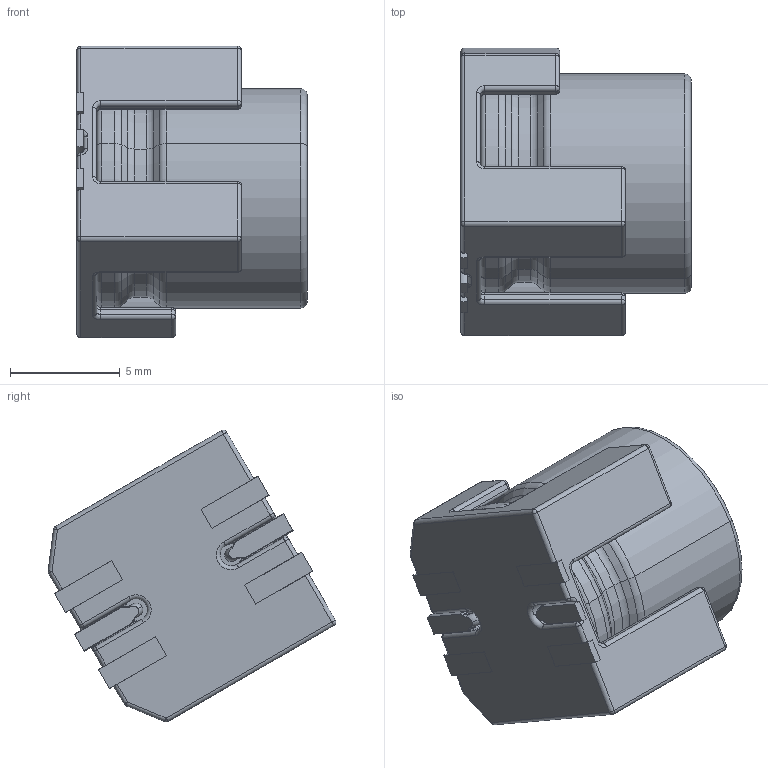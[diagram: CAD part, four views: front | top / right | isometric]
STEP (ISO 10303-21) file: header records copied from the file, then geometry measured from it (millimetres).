
FILE_DESCRIPTION((''),'2;1');
FILE_NAME('HYBRIDSMD10X105_ASM','2020-06-03T',('xy'),(''),'PRO/ENGINEER BY PARAMETRIC TECHNOLOGY CORPORATION, 2009380','PRO/ENGINEER BY PARAMETRIC TECHNOLOGY CORPORATION, 2009380','');
FILE_SCHEMA(('CONFIG_CONTROL_DESIGN'));
Length unit declared in the file: millimetre
Products named in the file (3): HYBRIDSMD10X105; ZB10A; HYBRIDSMD10X105_ASM
Assembly tree (2 placements, depth 2):
  HYBRIDSMD10X105_ASM
    HYBRIDSMD10X105
    ZB10A
Bounding box: 10.51 x 13.12 x 13.3 mm (x, y, z)
Volume: 920.5 mm3; surface area: 928.4 mm2
Topology: 2 solids, 2 shells, 654 faces, 1705 edges, 1074 vertices
Faces by surface type: plane 442, cylinder 98, torus 55, sphere 32, bspline 23, cone 4
Entity records: 21016 total; most frequent: CARTESIAN_POINT 4912, ORIENTED_EDGE 3402, DIRECTION 3222, EDGE_CURVE 1701, VECTOR 1332, LINE 1332, VERTEX_POINT 1074, AXIS2_PLACEMENT_3D 945
